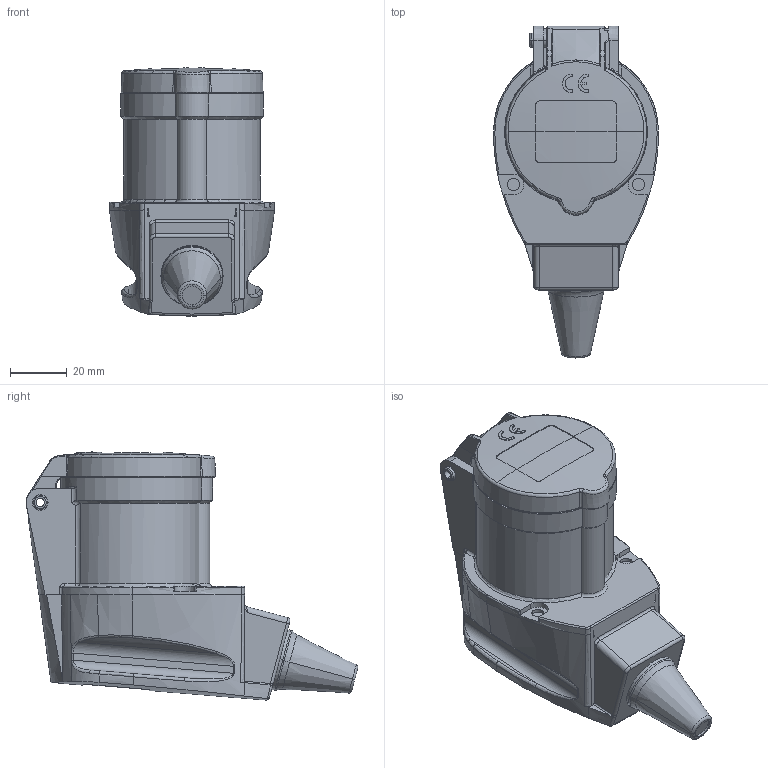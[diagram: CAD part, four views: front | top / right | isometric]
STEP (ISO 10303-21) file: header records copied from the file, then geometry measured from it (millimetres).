
FILE_DESCRIPTION((''),'2;1');
FILE_NAME('1115882_ASM_SW0001','2018-02-20T',('gisse'),('MENNEKES'),'PRO/ENGINEER BY PARAMETRIC TECHNOLOGY CORPORATION, 2015440','PRO/ENGINEER BY PARAMETRIC TECHNOLOGY CORPORATION, 2015440','');
FILE_SCHEMA(('AUTOMOTIVE_DESIGN { 1 0 10303 214 1 1 1 1 }'));
Length unit declared in the file: millimetre
Products named in the file (1): 1115882_ASM_SW0001
Bounding box: 58.4 x 117.38 x 87.86 mm (x, y, z)
Volume: 229884.4 mm3; surface area: 31081.6 mm2
Topology: 1 solids, 1 shells, 360 faces, 932 edges, 580 vertices
Faces by surface type: bspline 108, plane 105, cylinder 89, torus 35, cone 13, sphere 6, extrusion 4
Entity records: 22915 total; most frequent: CARTESIAN_POINT 7448, ORIENTED_EDGE 1856, DIRECTION 1372, PRESENTATION_STYLE_ASSIGNMENT 1289, STYLED_ITEM 933, CURVE_STYLE 932, EDGE_CURVE 928, FILL_AREA_STYLE_COLOUR 711
